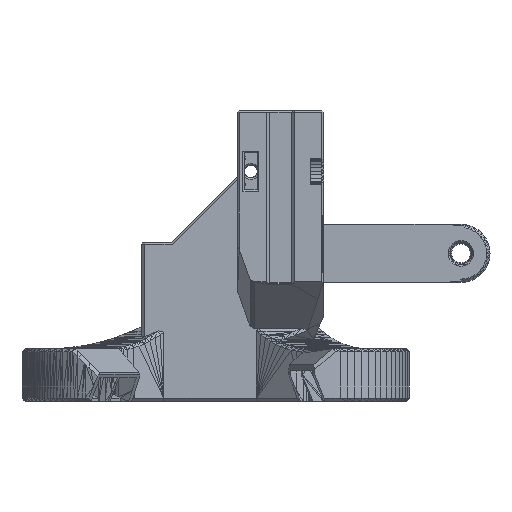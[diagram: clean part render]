
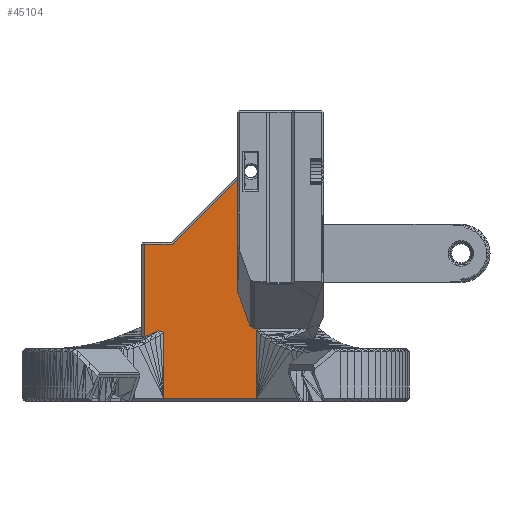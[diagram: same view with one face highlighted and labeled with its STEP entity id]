
A CAD part, left-side view. The second image highlights one B-rep face of the part: STEP entity #45104.
In plain terms, the highlighted planar face has unit normal (-1, 0, 0).
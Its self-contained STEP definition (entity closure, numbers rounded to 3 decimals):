
#505=FACE_OUTER_BOUND('',#3805,.T.);
#3805=EDGE_LOOP('',(#30608,#30609,#30610,#30611,#30612,#30613,#30614,#30615,
#30616,#30617,#30618,#30619,#30620,#30621,#30622));
#7811=LINE('',#66499,#14138);
#7855=LINE('',#66588,#14182);
#7857=LINE('',#66592,#14184);
#7858=LINE('',#66594,#14185);
#7859=LINE('',#66596,#14186);
#7860=LINE('',#66598,#14187);
#7861=LINE('',#66599,#14188);
#7862=LINE('',#66601,#14189);
#7863=LINE('',#66603,#14190);
#7864=LINE('',#66605,#14191);
#7865=LINE('',#66607,#14192);
#7866=LINE('',#66609,#14193);
#7867=LINE('',#66611,#14194);
#7868=LINE('',#66613,#14195);
#7869=LINE('',#66614,#14196);
#14138=VECTOR('',#53321,10.);
#14182=VECTOR('',#53373,10.);
#14184=VECTOR('',#53377,10.);
#14185=VECTOR('',#53378,10.);
#14186=VECTOR('',#53379,10.);
#14187=VECTOR('',#53380,10.);
#14188=VECTOR('',#53381,10.);
#14189=VECTOR('',#53382,10.);
#14190=VECTOR('',#53383,10.);
#14191=VECTOR('',#53384,10.);
#14192=VECTOR('',#53385,10.);
#14193=VECTOR('',#53386,10.);
#14194=VECTOR('',#53387,10.);
#14195=VECTOR('',#53388,10.);
#14196=VECTOR('',#53389,10.);
#20017=VERTEX_POINT('',#66496);
#20018=VERTEX_POINT('',#66498);
#20058=VERTEX_POINT('',#66585);
#20059=VERTEX_POINT('',#66587);
#20060=VERTEX_POINT('',#66591);
#20061=VERTEX_POINT('',#66593);
#20062=VERTEX_POINT('',#66595);
#20063=VERTEX_POINT('',#66597);
#20064=VERTEX_POINT('',#66600);
#20065=VERTEX_POINT('',#66602);
#20066=VERTEX_POINT('',#66604);
#20067=VERTEX_POINT('',#66606);
#20068=VERTEX_POINT('',#66608);
#20069=VERTEX_POINT('',#66610);
#20070=VERTEX_POINT('',#66612);
#23503=EDGE_CURVE('',#20018,#20017,#7811,.T.);
#23547=EDGE_CURVE('',#20059,#20058,#7855,.T.);
#23549=EDGE_CURVE('',#20058,#20060,#7857,.T.);
#23550=EDGE_CURVE('',#20060,#20061,#7858,.T.);
#23551=EDGE_CURVE('',#20061,#20062,#7859,.T.);
#23552=EDGE_CURVE('',#20062,#20063,#7860,.T.);
#23553=EDGE_CURVE('',#20063,#20018,#7861,.T.);
#23554=EDGE_CURVE('',#20064,#20017,#7862,.T.);
#23555=EDGE_CURVE('',#20065,#20064,#7863,.T.);
#23556=EDGE_CURVE('',#20066,#20065,#7864,.T.);
#23557=EDGE_CURVE('',#20066,#20067,#7865,.T.);
#23558=EDGE_CURVE('',#20067,#20068,#7866,.T.);
#23559=EDGE_CURVE('',#20068,#20069,#7867,.T.);
#23560=EDGE_CURVE('',#20070,#20069,#7868,.T.);
#23561=EDGE_CURVE('',#20059,#20070,#7869,.T.);
#30608=ORIENTED_EDGE('',*,*,#23547,.T.);
#30609=ORIENTED_EDGE('',*,*,#23549,.T.);
#30610=ORIENTED_EDGE('',*,*,#23550,.T.);
#30611=ORIENTED_EDGE('',*,*,#23551,.T.);
#30612=ORIENTED_EDGE('',*,*,#23552,.T.);
#30613=ORIENTED_EDGE('',*,*,#23553,.T.);
#30614=ORIENTED_EDGE('',*,*,#23503,.T.);
#30615=ORIENTED_EDGE('',*,*,#23554,.F.);
#30616=ORIENTED_EDGE('',*,*,#23555,.F.);
#30617=ORIENTED_EDGE('',*,*,#23556,.F.);
#30618=ORIENTED_EDGE('',*,*,#23557,.T.);
#30619=ORIENTED_EDGE('',*,*,#23558,.T.);
#30620=ORIENTED_EDGE('',*,*,#23559,.T.);
#30621=ORIENTED_EDGE('',*,*,#23560,.F.);
#30622=ORIENTED_EDGE('',*,*,#23561,.F.);
#41812=PLANE('',#48415);
#45104=ADVANCED_FACE('',(#505),#41812,.T.);
#48415=AXIS2_PLACEMENT_3D('',#66590,#53375,#53376);
#53321=DIRECTION('',(0.,0.,1.));
#53373=DIRECTION('',(0.,-1.,0.));
#53375=DIRECTION('center_axis',(-1.,0.,0.));
#53376=DIRECTION('ref_axis',(0.,0.,1.));
#53377=DIRECTION('',(0.,0.,1.));
#53378=DIRECTION('',(0.,-0.739,0.673));
#53379=DIRECTION('',(0.,1.,0.));
#53380=DIRECTION('',(0.,0.905,0.426));
#53381=DIRECTION('',(0.,0.336,0.942));
#53382=DIRECTION('',(0.,-0.707,0.707));
#53383=DIRECTION('',(0.,-1.,0.));
#53384=DIRECTION('',(0.,0.,1.));
#53385=DIRECTION('',(0.,-0.936,0.353));
#53386=DIRECTION('',(0.,-0.923,0.384));
#53387=DIRECTION('',(0.,-0.916,0.402));
#53388=DIRECTION('',(0.,0.971,0.237));
#53389=DIRECTION('',(0.,0.,1.));
#66496=CARTESIAN_POINT('',(74.11,-6.218,33.646));
#66498=CARTESIAN_POINT('',(74.11,-6.218,16.633));
#66499=CARTESIAN_POINT('',(74.11,-6.218,16.633));
#66585=CARTESIAN_POINT('',(74.11,-9.054,0.5));
#66587=CARTESIAN_POINT('',(74.11,4.941,0.5));
#66588=CARTESIAN_POINT('',(74.11,4.941,0.5));
#66590=CARTESIAN_POINT('Origin',(74.11,-9.424,11.026));
#66591=CARTESIAN_POINT('',(74.11,-9.054,10.689));
#66592=CARTESIAN_POINT('',(74.11,-9.054,0.5));
#66593=CARTESIAN_POINT('',(74.11,-9.424,11.026));
#66594=CARTESIAN_POINT('',(74.11,-9.054,10.689));
#66595=CARTESIAN_POINT('',(74.11,-8.761,11.026));
#66596=CARTESIAN_POINT('',(74.11,-10.219,11.026));
#66597=CARTESIAN_POINT('',(74.11,-8.108,11.333));
#66598=CARTESIAN_POINT('',(74.11,-8.761,11.026));
#66599=CARTESIAN_POINT('',(74.11,-8.108,11.333));
#66600=CARTESIAN_POINT('',(74.11,3.679,23.75));
#66601=CARTESIAN_POINT('',(74.11,3.679,23.75));
#66602=CARTESIAN_POINT('',(74.11,7.882,23.75));
#66603=CARTESIAN_POINT('',(74.11,7.882,23.75));
#66604=CARTESIAN_POINT('',(74.11,7.882,9.806));
#66605=CARTESIAN_POINT('',(74.11,7.882,9.806));
#66606=CARTESIAN_POINT('',(74.11,7.115,10.095));
#66607=CARTESIAN_POINT('',(74.11,7.882,9.806));
#66608=CARTESIAN_POINT('',(74.11,6.124,10.508));
#66609=CARTESIAN_POINT('',(74.11,7.115,10.095));
#66610=CARTESIAN_POINT('',(74.11,5.771,10.662));
#66611=CARTESIAN_POINT('',(74.11,6.124,10.508));
#66612=CARTESIAN_POINT('',(74.11,4.941,10.46));
#66613=CARTESIAN_POINT('',(74.11,4.941,10.46));
#66614=CARTESIAN_POINT('',(74.11,4.941,0.5));
